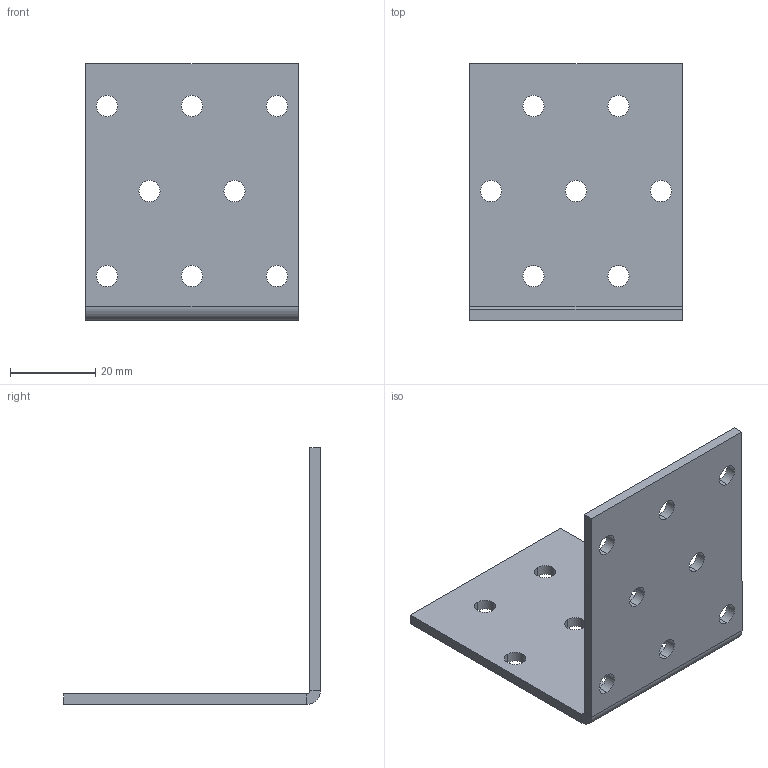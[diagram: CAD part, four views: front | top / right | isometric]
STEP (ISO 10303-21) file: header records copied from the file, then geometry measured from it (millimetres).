
FILE_DESCRIPTION (( 'STEP AP203' ), '1' );
FILE_NAME ('10525.STEP', '2020-04-20T10:54:43', ( '' ), ( '' ), 'SwSTEP 2.0', 'SolidWorks 2013', '' );
FILE_SCHEMA (( 'CONFIG_CONTROL_DESIGN' ));
Length unit declared in the file: millimetre
Products named in the file (1): 10525
Bounding box: 50 x 60.46 x 60.46 mm (x, y, z)
Volume: 13960 mm3; surface area: 12594.9 mm2
Topology: 1 solids, 1 shells, 42 faces, 116 edges, 76 vertices
Faces by surface type: cylinder 32, plane 10
Entity records: 1509 total; most frequent: DIRECTION 266, CARTESIAN_POINT 235, ORIENTED_EDGE 232, EDGE_CURVE 116, AXIS2_PLACEMENT_3D 107, VERTEX_POINT 76, EDGE_LOOP 72, CIRCLE 64
